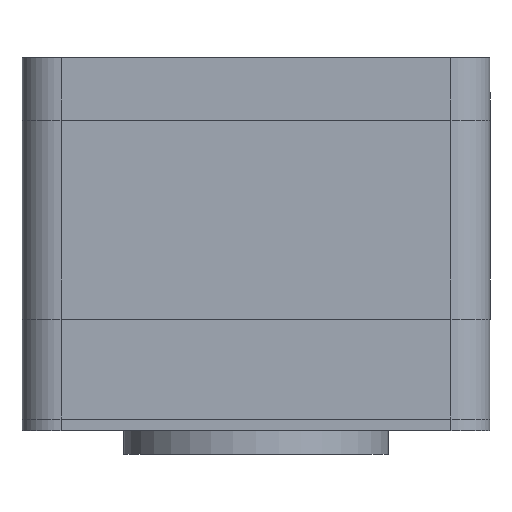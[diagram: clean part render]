
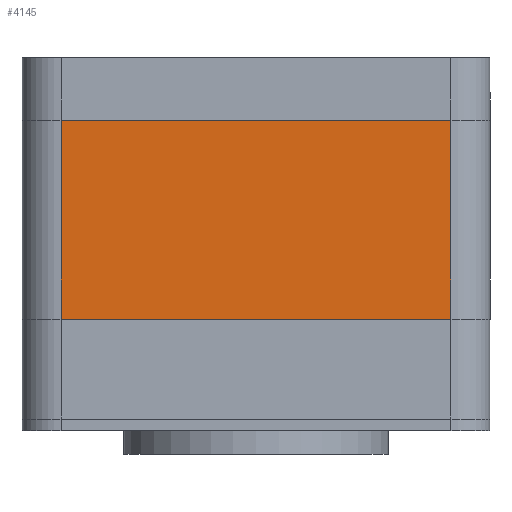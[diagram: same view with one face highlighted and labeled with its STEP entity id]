
A CAD part, front view. The second image highlights one B-rep face of the part: STEP entity #4145.
In plain terms, the highlighted planar face has unit normal (0, -1, 0).
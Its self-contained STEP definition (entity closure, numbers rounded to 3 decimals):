
#265 = VERTEX_POINT ( 'NONE', #4373 ) ;
#392 = CARTESIAN_POINT ( 'NONE',  ( -30., -30., 0. ) ) ;
#448 = DIRECTION ( 'NONE',  ( 1., 0., 0. ) ) ;
#798 = ORIENTED_EDGE ( 'NONE', *, *, #2690, .T. ) ;
#1376 = EDGE_CURVE ( 'NONE', #6079, #6222, #5557, .T. ) ;
#1980 = VECTOR ( 'NONE', #2491, 1000. ) ;
#2020 = FACE_OUTER_BOUND ( 'NONE', #6503, .T. ) ;
#2200 = CARTESIAN_POINT ( 'NONE',  ( 25., -30., -25.5 ) ) ;
#2250 = VECTOR ( 'NONE', #2906, 1000. ) ;
#2316 = ORIENTED_EDGE ( 'NONE', *, *, #3162, .T. ) ;
#2491 = DIRECTION ( 'NONE',  ( 1., 0., 0. ) ) ;
#2690 = EDGE_CURVE ( 'NONE', #4736, #6222, #4209, .T. ) ;
#2785 = LINE ( 'NONE', #4376, #4793 ) ;
#2906 = DIRECTION ( 'NONE',  ( 1., 0., 0. ) ) ;
#2990 = PLANE ( 'NONE',  #4369 ) ;
#3162 = EDGE_CURVE ( 'NONE', #6079, #265, #2785, .T. ) ;
#3910 = VECTOR ( 'NONE', #4618, 1000. ) ;
#4145 = ADVANCED_FACE ( 'NONE', ( #2020 ), #2990, .T. ) ;
#4209 = LINE ( 'NONE', #5680, #3910 ) ;
#4361 = CARTESIAN_POINT ( 'NONE',  ( -30., -30., -25.5 ) ) ;
#4369 = AXIS2_PLACEMENT_3D ( 'NONE', #6138, #6104, #448 ) ;
#4373 = CARTESIAN_POINT ( 'NONE',  ( -25., -30., -25.5 ) ) ;
#4376 = CARTESIAN_POINT ( 'NONE',  ( -25., -30., -174.411 ) ) ;
#4618 = DIRECTION ( 'NONE',  ( 0., 0., 1. ) ) ;
#4630 = ORIENTED_EDGE ( 'NONE', *, *, #6390, .T. ) ;
#4736 = VERTEX_POINT ( 'NONE', #2200 ) ;
#4771 = DIRECTION ( 'NONE',  ( 0., 0., -1. ) ) ;
#4793 = VECTOR ( 'NONE', #4771, 1000. ) ;
#4893 = LINE ( 'NONE', #4361, #2250 ) ;
#5158 = CARTESIAN_POINT ( 'NONE',  ( 25., -30., 0. ) ) ;
#5557 = LINE ( 'NONE', #392, #1980 ) ;
#5569 = CARTESIAN_POINT ( 'NONE',  ( -25., -30., 0. ) ) ;
#5626 = ORIENTED_EDGE ( 'NONE', *, *, #1376, .F. ) ;
#5680 = CARTESIAN_POINT ( 'NONE',  ( 25., -30., -174.411 ) ) ;
#6079 = VERTEX_POINT ( 'NONE', #5569 ) ;
#6104 = DIRECTION ( 'NONE',  ( 0., -1., 0. ) ) ;
#6138 = CARTESIAN_POINT ( 'NONE',  ( -30., -30., -174.411 ) ) ;
#6222 = VERTEX_POINT ( 'NONE', #5158 ) ;
#6390 = EDGE_CURVE ( 'NONE', #265, #4736, #4893, .T. ) ;
#6503 = EDGE_LOOP ( 'NONE', ( #5626, #2316, #4630, #798 ) ) ;
